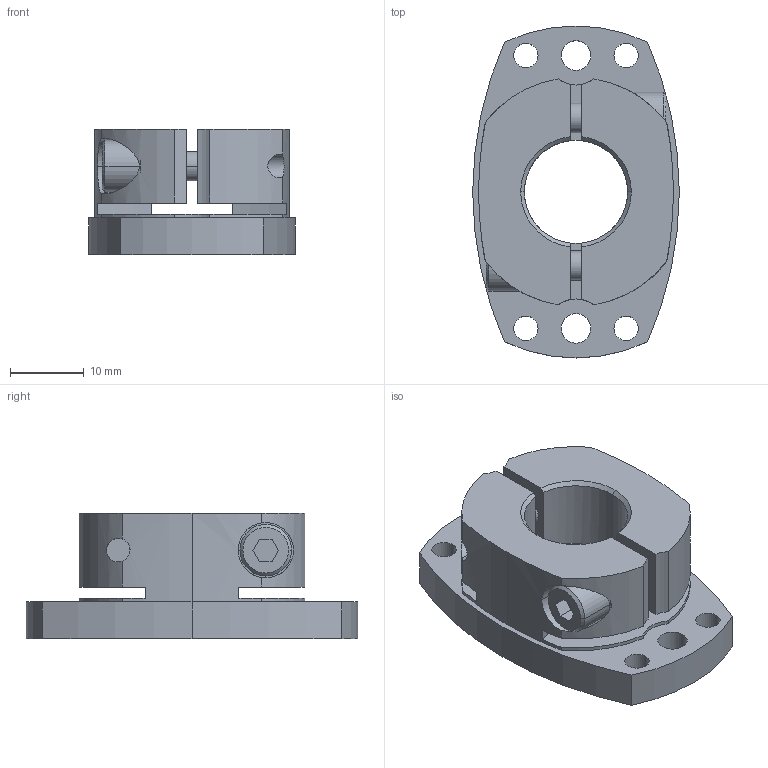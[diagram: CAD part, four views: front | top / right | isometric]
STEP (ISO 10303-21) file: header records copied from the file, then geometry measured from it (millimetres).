
FILE_DESCRIPTION((''),'2;1');
FILE_NAME('SHDB-45B-14.stp','2026-01-27T12:40:04',(''),(''),'AutoCAD STEP 2000i','AutoCAD 2000i',', , ');
FILE_SCHEMA(('CONFIG_CONTROL_DESIGN'));
Length unit declared in the file: millimetre
Products named in the file (2): SHDB-45B-10; 忣兜1
Assembly tree (1 placements, depth 2):
  SHDB-45B-10
    忣兜1
Bounding box: 28 x 45 x 17 mm (x, y, z)
Volume: 9865 mm3; surface area: 5933.8 mm2
Topology: 1 solids, 1 shells, 102 faces, 280 edges, 184 vertices
Faces by surface type: cylinder 58, plane 34, cone 10
Entity records: 3661 total; most frequent: CARTESIAN_POINT 834, DIRECTION 602, ORIENTED_EDGE 560, EDGE_CURVE 280, AXIS2_PLACEMENT_3D 238, VERTEX_POINT 184, CIRCLE 134, VECTOR 126
